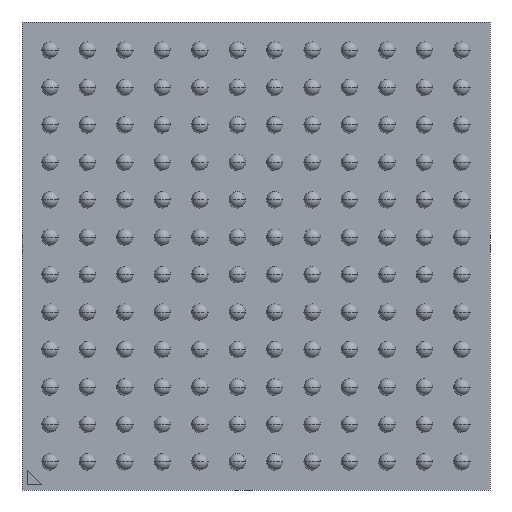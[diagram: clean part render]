
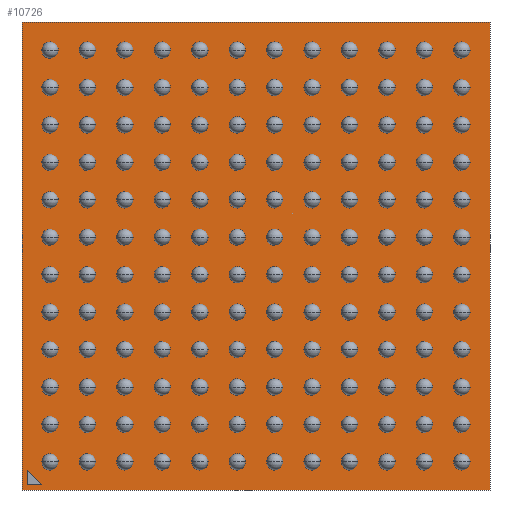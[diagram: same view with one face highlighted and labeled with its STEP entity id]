
A CAD part, front view. The second image highlights one B-rep face of the part: STEP entity #10726.
In plain terms, the highlighted planar face has unit normal (0, -1, 0).
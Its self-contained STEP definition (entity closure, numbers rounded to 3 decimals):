
#155 = DIRECTION ( 'NONE',  ( 0., 1., 0. ) ) ;
#214 = EDGE_CURVE ( 'NONE', #848, #10430, #6084, .T. ) ;
#455 = DIRECTION ( 'NONE',  ( 1., 0., 0. ) ) ;
#637 = EDGE_CURVE ( 'NONE', #10430, #8922, #10644, .T. ) ;
#644 = LINE ( 'NONE', #10908, #1467 ) ;
#848 = VERTEX_POINT ( 'NONE', #3017 ) ;
#1348 = LINE ( 'NONE', #5036, #9579 ) ;
#1467 = VECTOR ( 'NONE', #7130, 1000. ) ;
#1545 = CARTESIAN_POINT ( 'NONE',  ( -5., 0.3, 5. ) ) ;
#2240 = EDGE_CURVE ( 'NONE', #11161, #5622, #3151, .T. ) ;
#2330 = ORIENTED_EDGE ( 'NONE', *, *, #5903, .T. ) ;
#3017 = CARTESIAN_POINT ( 'NONE',  ( -5., 0.3, 5. ) ) ;
#3035 = FACE_BOUND ( 'NONE', #6230, .T. ) ;
#3151 = LINE ( 'NONE', #7781, #11327 ) ;
#3262 = DIRECTION ( 'NONE',  ( -0.707, 0., 0.707 ) ) ;
#3381 = ORIENTED_EDGE ( 'NONE', *, *, #2240, .F. ) ;
#3437 = CARTESIAN_POINT ( 'NONE',  ( -5., 0.3, -5. ) ) ;
#3582 = VECTOR ( 'NONE', #3864, 1000. ) ;
#3722 = VECTOR ( 'NONE', #7056, 1000. ) ;
#3864 = DIRECTION ( 'NONE',  ( -1., 0., 0. ) ) ;
#4392 = LINE ( 'NONE', #1545, #3582 ) ;
#5017 = ORIENTED_EDGE ( 'NONE', *, *, #11749, .F. ) ;
#5036 = CARTESIAN_POINT ( 'NONE',  ( -4.575, 0.3, -4.875 ) ) ;
#5180 = DIRECTION ( 'NONE',  ( 0., 0., -1. ) ) ;
#5319 = CARTESIAN_POINT ( 'NONE',  ( -4.875, 0.3, -4.575 ) ) ;
#5433 = ORIENTED_EDGE ( 'NONE', *, *, #214, .T. ) ;
#5560 = VERTEX_POINT ( 'NONE', #7760 ) ;
#5622 = VERTEX_POINT ( 'NONE', #5319 ) ;
#5830 = ORIENTED_EDGE ( 'NONE', *, *, #11263, .F. ) ;
#5903 = EDGE_CURVE ( 'NONE', #9010, #848, #4392, .T. ) ;
#6084 = LINE ( 'NONE', #9780, #9922 ) ;
#6230 = EDGE_LOOP ( 'NONE', ( #5830, #3381, #5017 ) ) ;
#6981 = ORIENTED_EDGE ( 'NONE', *, *, #10203, .T. ) ;
#7056 = DIRECTION ( 'NONE',  ( 1., 0., 0. ) ) ;
#7130 = DIRECTION ( 'NONE',  ( 0., 0., -1. ) ) ;
#7170 = ORIENTED_EDGE ( 'NONE', *, *, #637, .T. ) ;
#7361 = PLANE ( 'NONE',  #9611 ) ;
#7419 = CARTESIAN_POINT ( 'NONE',  ( 0., 0.3, 0. ) ) ;
#7640 = VECTOR ( 'NONE', #8683, 1000. ) ;
#7760 = CARTESIAN_POINT ( 'NONE',  ( -4.875, 0.3, -4.875 ) ) ;
#7781 = CARTESIAN_POINT ( 'NONE',  ( -4.875, 0.3, -4.575 ) ) ;
#7973 = CARTESIAN_POINT ( 'NONE',  ( -4.575, 0.3, -4.875 ) ) ;
#8683 = DIRECTION ( 'NONE',  ( 0., 0., 1. ) ) ;
#8922 = VERTEX_POINT ( 'NONE', #10069 ) ;
#9010 = VERTEX_POINT ( 'NONE', #9020 ) ;
#9020 = CARTESIAN_POINT ( 'NONE',  ( 5., 0.3, 5. ) ) ;
#9332 = FACE_OUTER_BOUND ( 'NONE', #11372, .T. ) ;
#9487 = CARTESIAN_POINT ( 'NONE',  ( 5., 0.3, 5. ) ) ;
#9579 = VECTOR ( 'NONE', #455, 1000. ) ;
#9611 = AXIS2_PLACEMENT_3D ( 'NONE', #7419, #155, #11140 ) ;
#9647 = LINE ( 'NONE', #9487, #7640 ) ;
#9780 = CARTESIAN_POINT ( 'NONE',  ( -5., 0.3, 5. ) ) ;
#9922 = VECTOR ( 'NONE', #5180, 1000. ) ;
#10069 = CARTESIAN_POINT ( 'NONE',  ( 5., 0.3, -5. ) ) ;
#10203 = EDGE_CURVE ( 'NONE', #8922, #9010, #9647, .T. ) ;
#10430 = VERTEX_POINT ( 'NONE', #10453 ) ;
#10453 = CARTESIAN_POINT ( 'NONE',  ( -5., 0.3, -5. ) ) ;
#10644 = LINE ( 'NONE', #3437, #3722 ) ;
#10726 = ADVANCED_FACE ( 'NONE', ( #3035, #9332 ), #7361, .F. ) ;
#10908 = CARTESIAN_POINT ( 'NONE',  ( -4.875, 0.3, -4.875 ) ) ;
#11140 = DIRECTION ( 'NONE',  ( 0., 0., 1. ) ) ;
#11161 = VERTEX_POINT ( 'NONE', #7973 ) ;
#11263 = EDGE_CURVE ( 'NONE', #5622, #5560, #644, .T. ) ;
#11327 = VECTOR ( 'NONE', #3262, 1000. ) ;
#11372 = EDGE_LOOP ( 'NONE', ( #6981, #2330, #5433, #7170 ) ) ;
#11749 = EDGE_CURVE ( 'NONE', #5560, #11161, #1348, .T. ) ;
